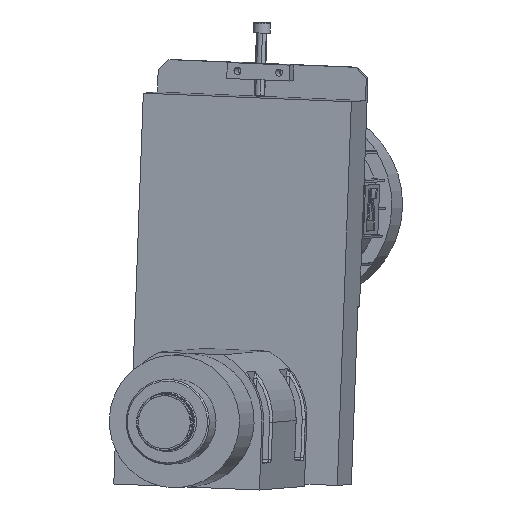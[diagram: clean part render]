
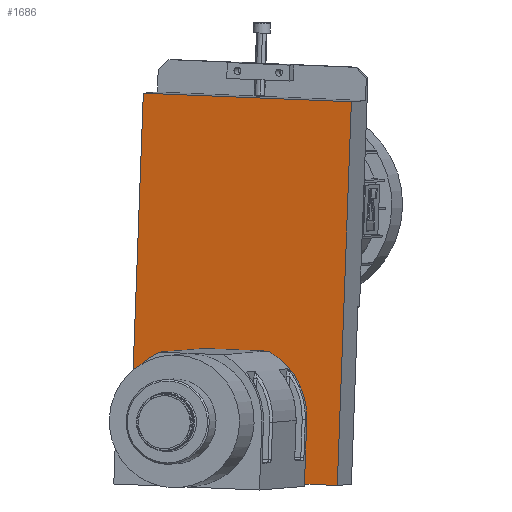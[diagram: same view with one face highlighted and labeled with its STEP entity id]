
A CAD part, front view. The second image highlights one B-rep face of the part: STEP entity #1686.
In plain terms, the highlighted planar face has unit normal (-0.192, -0.981, -0.015).
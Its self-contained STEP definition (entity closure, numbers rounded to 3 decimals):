
#1539=CARTESIAN_POINT('',(118.523,98.01,46.822));
#1540=VERTEX_POINT('',#1539);
#1541=CARTESIAN_POINT('',(33.806,114.565,50.315));
#1542=VERTEX_POINT('',#1541);
#1543=CARTESIAN_POINT('',(118.523,98.01,46.822));
#1544=DIRECTION('',(-0.981,0.192,0.04));
#1545=VECTOR('',#1544,86.389);
#1546=LINE('',#1543,#1545);
#1547=EDGE_CURVE('',#1540,#1542,#1546,.T.);
#1549=CARTESIAN_POINT('',(7.112,119.781,51.416));
#1550=VERTEX_POINT('',#1549);
#1557=CARTESIAN_POINT('',(-77.604,136.336,54.908));
#1558=VERTEX_POINT('',#1557);
#1559=CARTESIAN_POINT('',(7.112,119.781,51.416));
#1560=DIRECTION('',(-0.981,0.192,0.04));
#1561=VECTOR('',#1560,86.389);
#1562=LINE('',#1559,#1561);
#1563=EDGE_CURVE('',#1550,#1558,#1562,.T.);
#1595=CARTESIAN_POINT('',(-64.307,128.081,416.57));
#1596=VERTEX_POINT('',#1595);
#1597=CARTESIAN_POINT('',(131.82,89.754,408.484));
#1598=VERTEX_POINT('',#1597);
#1599=CARTESIAN_POINT('',(-64.307,128.081,416.57));
#1600=DIRECTION('',(0.981,-0.192,-0.04));
#1601=VECTOR('',#1600,200.);
#1602=LINE('',#1599,#1601);
#1603=EDGE_CURVE('',#1596,#1598,#1602,.T.);
#1657=CARTESIAN_POINT('',(27.108,113.045,231.696));
#1658=DIRECTION('',(-0.192,-0.981,-0.015));
#1659=DIRECTION('',(0.981,-0.192,-0.04));
#1660=AXIS2_PLACEMENT_3D('',#1657,#1658,#1659);
#1661=PLANE('',#1660);
#1662=CARTESIAN_POINT('',(22.7,115.782,111.808));
#1663=DIRECTION('',(-0.192,-0.981,-0.015));
#1664=DIRECTION('',(-0.929,0.177,0.324));
#1665=AXIS2_PLACEMENT_3D('',#1662,#1663,#1664);
#1666=CIRCLE('',#1665,62.5);
#1667=EDGE_CURVE('',#1542,#1550,#1666,.T.);
#1668=ORIENTED_EDGE('',*,*,#1667,.F.);
#1669=ORIENTED_EDGE('',*,*,#1547,.F.);
#1670=CARTESIAN_POINT('',(131.82,89.754,408.484));
#1671=DIRECTION('',(-0.037,0.023,-0.999));
#1672=VECTOR('',#1671,362.);
#1673=LINE('',#1670,#1672);
#1674=EDGE_CURVE('',#1598,#1540,#1673,.T.);
#1675=ORIENTED_EDGE('',*,*,#1674,.F.);
#1676=ORIENTED_EDGE('',*,*,#1603,.F.);
#1677=CARTESIAN_POINT('',(-77.604,136.336,54.908));
#1678=DIRECTION('',(0.037,-0.023,0.999));
#1679=VECTOR('',#1678,362.);
#1680=LINE('',#1677,#1679);
#1681=EDGE_CURVE('',#1558,#1596,#1680,.T.);
#1682=ORIENTED_EDGE('',*,*,#1681,.F.);
#1683=ORIENTED_EDGE('',*,*,#1563,.F.);
#1684=EDGE_LOOP('',(#1668,#1669,#1675,#1676,#1682,#1683));
#1685=FACE_OUTER_BOUND('',#1684,.T.);
#1686=ADVANCED_FACE('',(#1685),#1661,.T.);
